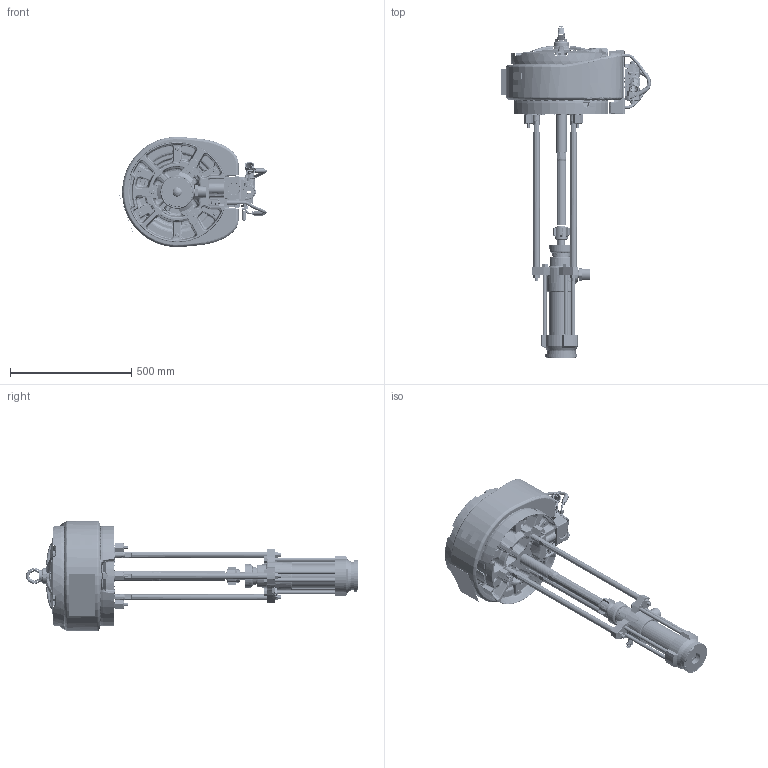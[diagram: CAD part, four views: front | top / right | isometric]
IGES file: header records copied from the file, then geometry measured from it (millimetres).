
Start section:  PTC IGES file: p35lcs-en-e.igs
Global section: file name: p35lcs-en-e.igs; native system: Creo Parametric by PTC Inc.; preprocessor: 2019030; author: qusrh3; organization: Unknown; date: 20200528.135400; units: inch
Bounding box: 615.5 x 1366.4 x 454.59 mm (x, y, z)
Surface area: 3695340.5 mm2 (no closed solid volume)
Topology: 0 solids, 0 shells, 4210 faces, 23601 edges, 23595 vertices
Faces by surface type: revolution 2115, bspline 2091, extrusion 4
